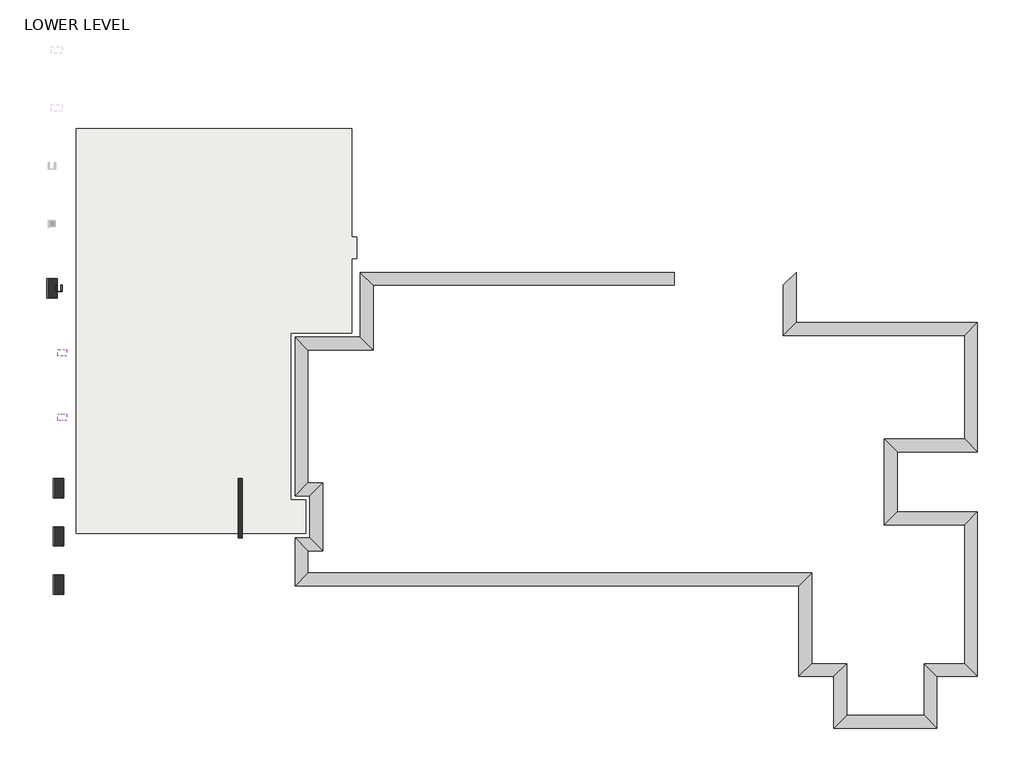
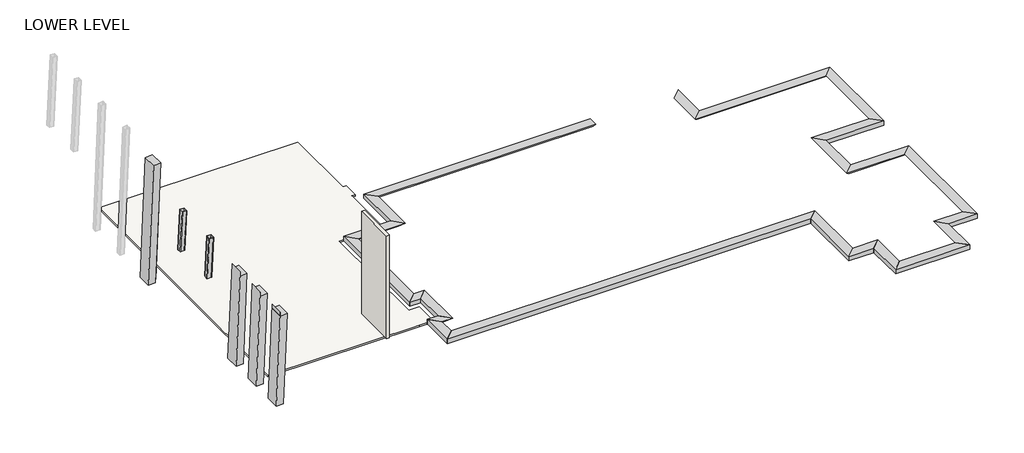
# One storey, part 1 of 2: 10 proxies, 7 columns, 1 slab, 1 wall.
"""IFC4 building model written with IfcOpenShell, lengths in millimetres."""

from ifc_helpers import new_model, si_unit, frame, origin, place, context, project, spatial, polyline, circle_curve, ellipse_curve, outline, extrude, faceted_brep, element, save
from ifc_brep_helpers import plane_surface, cylinder_surface, revolved_surface, advanced_brep

model = new_model("IFC4")

# Units and contexts
model_context = context("Model", 3, world=origin())
ifc_project = project(units=[si_unit("LENGTHUNIT", "METRE", prefix="MILLI")], contexts=[model_context])

# Site, building, storey
site = spatial("IfcSite", under=ifc_project)
building = spatial("IfcBuilding", under=site)
storey = spatial("IfcBuildingStorey", under=building, Name="LOWER LEVEL", Elevation=29972.0)

# Proxies
placement = place(None, origin())
element("IfcBuildingElementProxy", 1, Name="Thickened 24\" x 12\"", ObjectType="Thickened 24\" x 12\"", at=placement, inside=storey, context=model_context, shape_type="Brep", body=[
    faceted_brep([(-10225.7204607, -7095.1304995, 30048.2), (-10225.7204607, -7095.1304995, 30353.0), (-9616.1204607, -6485.5304995, 30353.0), (-9920.9204607, -6790.3304995, 30048.2), (13583.6045393, -7095.1304995, 30048.2), (13888.4045393, -6790.3304995, 30048.2), (14193.2045393, -6485.5304995, 30353.0), (13583.6045393, -7095.1304995, 30353.0)], [[[0, 1, 2, 3]], [[4, 5, 6, 7]], [[1, 0, 4, 7]], [[2, 1, 7, 6]], [[3, 2, 6, 5]], [[0, 3, 5, 4]]]),
])
element("IfcBuildingElementProxy", 2, Name="Thickened 24\" x 12\"", ObjectType="Thickened 24\" x 12\"", at=placement, inside=storey, context=model_context, shape_type="Brep", body=[
    faceted_brep([(13583.6045393, -7095.1304995, 30048.2), (13583.6045393, -7095.1304995, 30353.0), (14193.2045393, -6485.5304995, 30353.0), (13888.4045393, -6790.3304995, 30048.2), (13583.6045393, -11381.3804995, 30048.2), (13888.4045393, -11076.5804995, 30048.2), (14193.2045393, -10771.7804995, 30353.0), (13583.6045393, -11381.3804995, 30353.0)], [[[0, 1, 2, 3]], [[4, 5, 6, 7]], [[1, 0, 4, 7]], [[2, 1, 7, 6]], [[3, 2, 6, 5]], [[0, 3, 5, 4]]]),
    faceted_brep([(20105.0545393, -11381.3804995, 30048.2), (20105.0545393, -11381.3804995, 30353.0), (19495.4545393, -10771.7804995, 30353.0), (19800.2545393, -11076.5804995, 30048.2), (22019.578935, -11381.3804995, 30048.2), (22019.578935, -11381.3804995, 30353.0), (21409.978935, -10771.7804995, 30353.0), (21714.778935, -11076.5804995, 30048.2), (22019.578935, -3602.6304995, 30048.2), (22019.578935, -3602.6304995, 30353.0), (21409.978935, -4212.2304995, 30353.0), (21714.778935, -3907.4304995, 30048.2), (18219.8486799, -3602.6304995, 30048.2), (18219.8486799, -3602.6304995, 30353.0), (17610.2486799, -4212.2304995, 30353.0), (17915.0486799, -3907.4304995, 30048.2), (18219.8486799, -757.8304995, 30048.2), (18219.8486799, -757.8304995, 30353.0), (17610.2486799, -148.2304995, 30353.0), (17915.0486799, -453.0304995, 30048.2), (22019.578935, -757.8304995, 30048.2), (22019.578935, -757.8304995, 30353.0), (21409.978935, -148.2304995, 30353.0), (21714.778935, -453.0304995, 30048.2), (22019.578935, 5350.8695005, 30048.2), (22019.578935, 5350.8695005, 30353.0), (21409.978935, 4741.2695005, 30353.0), (21714.778935, 5046.0695005, 30048.2), (13450.2545393, 5350.8695005, 30048.2), (13450.2545393, 5350.8695005, 30353.0), (12840.6545393, 4741.2695005, 30353.0), (13145.4545393, 5046.0695005, 30048.2), (13450.2545393, 7725.7695005, 30048.2), (13145.4545393, 7420.9695005, 30048.2), (12840.6545393, 7116.1695005, 30353.0), (13450.2545393, 7725.7695005, 30353.0)], [[[0, 1, 2, 3]], [[1, 0, 4, 5]], [[2, 1, 5, 6]], [[3, 2, 6, 7]], [[0, 3, 7, 4]], [[5, 4, 8, 9]], [[6, 5, 9, 10]], [[7, 6, 10, 11]], [[4, 7, 11, 8]], [[9, 8, 12, 13]], [[10, 9, 13, 14]], [[11, 10, 14, 15]], [[8, 11, 15, 12]], [[13, 12, 16, 17]], [[14, 13, 17, 18]], [[15, 14, 18, 19]], [[12, 15, 19, 16]], [[17, 16, 20, 21]], [[18, 17, 21, 22]], [[19, 18, 22, 23]], [[16, 19, 23, 20]], [[21, 20, 24, 25]], [[22, 21, 25, 26]], [[23, 22, 26, 27]], [[20, 23, 27, 24]], [[25, 24, 28, 29]], [[26, 25, 29, 30]], [[27, 26, 30, 31]], [[24, 27, 31, 28]], [[32, 33, 34, 35]], [[29, 28, 32, 35]], [[30, 29, 35, 34]], [[31, 30, 34, 33]], [[28, 31, 33, 32]]]),
    faceted_brep([(7700.3295393, 7725.7695005, 30048.2), (7700.3295393, 7725.7695005, 30353.0), (7700.3295393, 7382.8695005, 30353.0), (7700.3295393, 7116.1695005, 30353.0), (7700.3295393, 7420.9695005, 30048.2), (7700.3295393, 7687.6695005, 30048.2), (-7149.1454607, 7725.7695005, 30048.2), (-7149.1454607, 7725.7695005, 30353.0), (-6539.5454607, 7116.1695005, 30353.0), (-6844.3454607, 7420.9695005, 30048.2), (-7149.1454607, 4661.8945005, 30048.2), (-7149.1454607, 4661.8945005, 30353.0), (-6539.5454607, 4052.2945005, 30353.0), (-6844.3454607, 4357.0945005, 30048.2), (-10225.7204607, 4661.8945005, 30048.2), (-10225.7204607, 4661.8945005, 30353.0), (-9616.1204607, 4052.2945005, 30353.0), (-9920.9204607, 4357.0945005, 30048.2), (-10225.7204607, -2837.4554995, 30048.2), (-9920.9204607, -2532.6554995, 30048.2), (-9616.1204607, -2227.8554995, 30353.0), (-10225.7204607, -2837.4554995, 30353.0)], [[[0, 1, 2, 3, 4, 5]], [[1, 0, 6, 7]], [[3, 2, 1, 7, 8]], [[4, 3, 8, 9]], [[0, 5, 4, 9, 6]], [[7, 6, 10, 11]], [[8, 7, 11, 12]], [[9, 8, 12, 13]], [[6, 9, 13, 10]], [[11, 10, 14, 15]], [[12, 11, 15, 16]], [[13, 12, 16, 17]], [[10, 13, 17, 14]], [[18, 19, 20, 21]], [[15, 14, 18, 21]], [[16, 15, 21, 20]], [[17, 16, 20, 19]], [[14, 17, 19, 18]]]),
])
element("IfcBuildingElementProxy", 3, Name="Thickened 24\" x 12\"", ObjectType="Thickened 24\" x 12\"", at=placement, inside=storey, context=model_context, shape_type="Brep", body=[
    faceted_brep([(-10225.7204607, -4821.8304995, 30048.2), (-10225.7204607, -4821.8304995, 30353.0), (-9616.1204607, -5431.4304995, 30353.0), (-9920.9204607, -5126.6304995, 30048.2), (-10225.7204607, -7095.1304995, 30048.2), (-9920.9204607, -6790.3304995, 30048.2), (-9616.1204607, -6485.5304995, 30353.0), (-10225.7204607, -7095.1304995, 30353.0)], [[[0, 1, 2, 3]], [[4, 5, 6, 7]], [[1, 0, 4, 7]], [[2, 1, 7, 6]], [[3, 2, 6, 5]], [[0, 3, 5, 4]]]),
])
element("IfcBuildingElementProxy", 4, Name="Thickened 24\" x 12\"", ObjectType="Thickened 24\" x 12\"", at=placement, inside=storey, context=model_context, shape_type="Brep", body=[
    faceted_brep([(13583.6045393, -11381.3804995, 30048.2), (13583.6045393, -11381.3804995, 30353.0), (14193.2045393, -10771.7804995, 30353.0), (13888.4045393, -11076.5804995, 30048.2), (15240.9545393, -11381.3804995, 30048.2), (15545.7545393, -11076.5804995, 30048.2), (15850.5545393, -10771.7804995, 30353.0), (15240.9545393, -11381.3804995, 30353.0)], [[[0, 1, 2, 3]], [[4, 5, 6, 7]], [[1, 0, 4, 7]], [[2, 1, 7, 6]], [[3, 2, 6, 5]], [[0, 3, 5, 4]]]),
])
element("IfcBuildingElementProxy", 5, Name="Thickened 24\" x 12\"", ObjectType="Thickened 24\" x 12\"", at=placement, inside=storey, context=model_context, shape_type="Brep", body=[
    faceted_brep([(-10225.7204607, -2837.4554995, 30048.2), (-10225.7204607, -2837.4554995, 30353.0), (-9616.1204607, -2227.8554995, 30353.0), (-9920.9204607, -2532.6554995, 30048.2), (-9524.0454607, -2837.4554995, 30048.2), (-9219.2454607, -2532.6554995, 30048.2), (-8914.4454607, -2227.8554995, 30353.0), (-9524.0454607, -2837.4554995, 30353.0)], [[[0, 1, 2, 3]], [[4, 5, 6, 7]], [[1, 0, 4, 7]], [[2, 1, 7, 6]], [[3, 2, 6, 5]], [[0, 3, 5, 4]]]),
])
element("IfcBuildingElementProxy", 6, Name="Thickened 24\" x 12\"", ObjectType="Thickened 24\" x 12\"", at=placement, inside=storey, context=model_context, shape_type="Brep", body=[
    faceted_brep([(-9524.0454607, -2837.4554995, 30048.2), (-9524.0454607, -2837.4554995, 30353.0), (-8914.4454607, -2227.8554995, 30353.0), (-9219.2454607, -2532.6554995, 30048.2), (-9524.0454607, -4821.8304995, 30048.2), (-9219.2454607, -5126.6304995, 30048.2), (-8914.4454607, -5431.4304995, 30353.0), (-9524.0454607, -4821.8304995, 30353.0)], [[[0, 1, 2, 3]], [[4, 5, 6, 7]], [[1, 0, 4, 7]], [[2, 1, 7, 6]], [[3, 2, 6, 5]], [[0, 3, 5, 4]]]),
])
element("IfcBuildingElementProxy", 7, Name="Thickened 24\" x 12\"", ObjectType="Thickened 24\" x 12\"", at=placement, inside=storey, context=model_context, shape_type="Brep", body=[
    faceted_brep([(-9524.0454607, -4821.8304995, 30048.2), (-9524.0454607, -4821.8304995, 30353.0), (-8914.4454607, -5431.4304995, 30353.0), (-9219.2454607, -5126.6304995, 30048.2), (-10225.7204607, -4821.8304995, 30048.2), (-9920.9204607, -5126.6304995, 30048.2), (-9616.1204607, -5431.4304995, 30353.0), (-10225.7204607, -4821.8304995, 30353.0)], [[[0, 1, 2, 3]], [[4, 5, 6, 7]], [[1, 0, 4, 7]], [[2, 1, 7, 6]], [[3, 2, 6, 5]], [[0, 3, 5, 4]]]),
])
element("IfcBuildingElementProxy", 8, Name="Thickened 24\" x 12\"", ObjectType="Thickened 24\" x 12\"", at=placement, inside=storey, context=model_context, shape_type="Brep", body=[
    faceted_brep([(15240.9545393, -11381.3804995, 30048.2), (15240.9545393, -11381.3804995, 30353.0), (15850.5545393, -10771.7804995, 30353.0), (15545.7545393, -11076.5804995, 30048.2), (15240.9545393, -13826.1304995, 30048.2), (15545.7545393, -13521.3304995, 30048.2), (15850.5545393, -13216.5304995, 30353.0), (15240.9545393, -13826.1304995, 30353.0)], [[[0, 1, 2, 3]], [[4, 5, 6, 7]], [[1, 0, 4, 7]], [[2, 1, 7, 6]], [[3, 2, 6, 5]], [[0, 3, 5, 4]]]),
])
element("IfcBuildingElementProxy", 9, Name="Thickened 24\" x 12\"", ObjectType="Thickened 24\" x 12\"", at=placement, inside=storey, context=model_context, shape_type="Brep", body=[
    faceted_brep([(15240.9545393, -13826.1304995, 30048.2), (15240.9545393, -13826.1304995, 30353.0), (15850.5545393, -13216.5304995, 30353.0), (15545.7545393, -13521.3304995, 30048.2), (20105.0545393, -13826.1304995, 30048.2), (19800.2545393, -13521.3304995, 30048.2), (19495.4545393, -13216.5304995, 30353.0), (20105.0545393, -13826.1304995, 30353.0)], [[[0, 1, 2, 3]], [[4, 5, 6, 7]], [[1, 0, 4, 7]], [[2, 1, 7, 6]], [[3, 2, 6, 5]], [[0, 3, 5, 4]]]),
])
element("IfcBuildingElementProxy", 10, Name="Thickened 24\" x 12\"", ObjectType="Thickened 24\" x 12\"", at=placement, inside=storey, context=model_context, shape_type="Brep", body=[
    faceted_brep([(20105.0545393, -13826.1304995, 30048.2), (20105.0545393, -13826.1304995, 30353.0), (19495.4545393, -13216.5304995, 30353.0), (19800.2545393, -13521.3304995, 30048.2), (20105.0545393, -11381.3804995, 30048.2), (19800.2545393, -11076.5804995, 30048.2), (19495.4545393, -10771.7804995, 30353.0), (20105.0545393, -11381.3804995, 30353.0)], [[[0, 1, 2, 3]], [[4, 5, 6, 7]], [[1, 0, 4, 7]], [[2, 1, 7, 6]], [[3, 2, 6, 5]], [[0, 3, 5, 4]]]),
])

# Columns
element("IfcColumn", 11, ObjectType="Concrete-Rectangular-Column : A_str", at=placement, inside=storey, context=model_context, shape_type="SweptSolid", body=[
    extrude(outline(polyline([(38153.5165689, -21149.7498015), (38102.0297181, -21610.0591887), (29972.0, -21968.2744496), (29972.0, -21510.233612), (38153.5165689, -21149.7498015)])), frame((0.0, 6519.2695005, 0.0), z_axis=(0.0, 1.0, 0.0), x_axis=(0.0, 0.0, 1.0)), (0.0, 0.0, 1.0), 914.4),
])
element("IfcColumn", 12, ObjectType="Concrete-Rectangular-Column : A_str", at=placement, inside=storey, context=model_context, shape_type="SweptSolid", body=[
    extrude(outline(polyline([(29973.8530358, -21660.8606217), (29973.8530358, -21202.8638747), (36170.6135377, -20943.7483082), (36120.4712951, -21392.0570572), (36402.3024462, -21392.0570572), (29973.8530358, -21660.8606217)])), frame((0.0, -7501.5304995, 0.0), z_axis=(0.0, 1.0, 0.0), x_axis=(0.0, 0.0, 1.0)), (0.0, 0.0, 1.0), 914.4),
])
element("IfcColumn", 13, ObjectType="Concrete-Rectangular-Column : A_str", at=placement, inside=storey, context=model_context, shape_type="SweptSolid", body=[
    extrude(outline(polyline([(29973.8530358, -21660.8606217), (29973.8530358, -21202.8638747), (36170.6135377, -20943.7483082), (36120.4712951, -21392.0570572), (36402.3024462, -21392.0570572), (29973.8530358, -21660.8606217)])), frame((0.0, -2929.5304995, 0.0), z_axis=(0.0, 1.0, 0.0), x_axis=(0.0, 0.0, 1.0)), (0.0, 0.0, 1.0), 914.4),
])
element("IfcColumn", 14, ObjectType="Concrete-Rectangular-Column : A_str", at=placement, inside=storey, context=model_context, shape_type="SweptSolid", body=[
    extrude(outline(polyline([(29973.8530358, -21660.8606217), (29973.8530358, -21202.8638747), (36170.6135377, -20943.7483082), (36120.4712951, -21392.0570572), (36402.3024462, -21392.0570572), (29973.8530358, -21660.8606217)])), frame((0.0, -5215.5304995, 0.0), z_axis=(0.0, 1.0, 0.0), x_axis=(0.0, 0.0, 1.0)), (0.0, 0.0, 1.0), 914.4),
])
element("IfcColumn", 15, ObjectType="HSS-Hollow Structural Section-Column : HSS12X12X1/2", at=placement, inside=storey, context=model_context, shape_type="AdvancedBrep", body=[
    advanced_brep(
    [(-21315.8891626, 7105.2475005, 36435.6858997), (-21315.8891626, 6847.6915005, 36435.6858997), (-21292.1362735, 6824.0695005, 36438.342617), (-21033.15316, 6824.0695005, 36467.3094054), (-21009.4002709, 6847.6915005, 36469.9661227), (-21009.4002709, 7105.2475005, 36469.9661227), (-21033.15316, 7128.8695005, 36467.3094054), (-21292.1362735, 7128.8695005, 36438.342617), (-21292.1362735, 6835.8805005, 36438.342617), (-21304.012718, 6847.6915005, 36437.0142583), (-21304.012718, 7105.2475005, 36437.0142583), (-21292.1362735, 7117.0585005, 36438.342617), (-21033.15316, 7117.0585005, 36467.3094054), (-21021.2767155, 7105.2475005, 36468.637764), (-21021.2767155, 6847.6915005, 36468.637764), (-21033.15316, 6835.8805005, 36467.3094054), (-21584.4793713, 7105.2475005, 29976.5811676), (-21584.4793713, 6847.6915005, 29976.5811676), (-21560.877768, 6835.8805005, 29975.5997375), (-21572.6785697, 6847.6915005, 29976.0904526), (-21303.5441577, 6835.8805005, 29964.8989839), (-21291.743356, 6847.6915005, 29964.4082689), (-21291.743356, 7105.2475005, 29964.4082689), (-21303.5441577, 7117.0585005, 29964.8989839), (-21560.877768, 7117.0585005, 29975.5997375), (-21572.6785697, 7105.2475005, 29976.0904526), (-21560.877768, 7128.8695005, 29975.5997375), (-21303.5441577, 7128.8695005, 29964.8989839), (-21279.9425544, 7105.2475005, 29963.9175539), (-21279.9425544, 6847.6915005, 29963.9175539), (-21303.5441577, 6824.0695005, 29964.8989839), (-21560.877768, 6824.0695005, 29975.5997375)],
    [
        (0, 1),
        (1, 2, ellipse_curve(frame((-21292.1362735, 6847.6915005, 36438.342617), z_axis=(-0.11115505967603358, 0.0, 0.9938030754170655), x_axis=(0.9938030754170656, 0.0, 0.11115505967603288)), 23.9010018, 23.622)),
        (2, 3),
        (3, 4, ellipse_curve(frame((-21033.15316, 6847.6915005, 36467.3094054), z_axis=(-0.11115505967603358, 0.0, 0.9938030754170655), x_axis=(0.9938030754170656, 0.0, 0.11115505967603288)), 23.9010018, 23.622)),
        (4, 5),
        (5, 6, ellipse_curve(frame((-21033.15316, 7105.2475005, 36467.3094054), z_axis=(-0.11115505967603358, 0.0, 0.9938030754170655), x_axis=(0.9938030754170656, 0.0, 0.11115505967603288)), 23.9010018, 23.622)),
        (6, 7),
        (7, 0, ellipse_curve(frame((-21292.1362735, 7105.2475005, 36438.342617), z_axis=(-0.11115505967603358, 0.0, 0.9938030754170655), x_axis=(0.9938030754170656, 0.0, 0.11115505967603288)), 23.9010018, 23.622)),
        (8, 9, ellipse_curve(frame((-21292.1362735, 6847.6915005, 36438.342617), z_axis=(0.11115505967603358, 0.0, -0.9938030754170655), x_axis=(-0.9938030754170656, 0.0, -0.11115505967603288)), 11.9505009, 11.811)),
        (9, 10),
        (10, 11, ellipse_curve(frame((-21292.1362735, 7105.2475005, 36438.342617), z_axis=(0.11115505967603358, 0.0, -0.9938030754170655), x_axis=(-0.9938030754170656, 0.0, -0.11115505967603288)), 11.9505009, 11.811)),
        (11, 12),
        (12, 13, ellipse_curve(frame((-21033.15316, 7105.2475005, 36467.3094054), z_axis=(0.11115505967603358, 0.0, -0.9938030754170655), x_axis=(-0.9938030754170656, 0.0, -0.11115505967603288)), 11.9505009, 11.811)),
        (13, 14),
        (14, 15, ellipse_curve(frame((-21033.15316, 6847.6915005, 36467.3094054), z_axis=(0.11115505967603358, 0.0, -0.9938030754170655), x_axis=(-0.9938030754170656, 0.0, -0.11115505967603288)), 11.9505009, 11.811)),
        (15, 8),
        (0, 16),
        (16, 17),
        (17, 1),
        (8, 18),
        (18, 19, circle_curve(frame((-21560.877768, 6847.6915005, 29975.5997375), z_axis=(-0.041547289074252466, 0.0, -0.9991365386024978), x_axis=(0.0, 1.0, 0.0)), 11.811)),
        (19, 9),
        (15, 20),
        (20, 18),
        (14, 21),
        (21, 20, circle_curve(frame((-21303.5441577, 6847.6915005, 29964.8989839), z_axis=(-0.041547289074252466, 0.0, -0.9991365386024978), x_axis=(0.0, 1.0, 0.0)), 11.811)),
        (13, 22),
        (22, 21),
        (12, 23),
        (23, 22, circle_curve(frame((-21303.5441577, 7105.2475005, 29964.8989839), z_axis=(-0.041547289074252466, 0.0, -0.9991365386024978), x_axis=(0.0, 1.0, 0.0)), 11.811)),
        (11, 24),
        (24, 23),
        (10, 25),
        (25, 24, circle_curve(frame((-21560.877768, 7105.2475005, 29975.5997375), z_axis=(-0.041547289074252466, 0.0, -0.9991365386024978), x_axis=(0.0, 1.0, 0.0)), 11.811)),
        (7, 26),
        (26, 16, circle_curve(frame((-21560.877768, 7105.2475005, 29975.5997375), z_axis=(0.041547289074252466, 0.0, 0.9991365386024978), x_axis=(0.0, 1.0, 0.0)), 23.622)),
        (26, 27),
        (27, 28, circle_curve(frame((-21303.5441577, 7105.2475005, 29964.8989839), z_axis=(-0.041547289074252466, 0.0, -0.9991365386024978), x_axis=(0.0, 1.0, 0.0)), 23.622)),
        (28, 29),
        (29, 30, circle_curve(frame((-21303.5441577, 6847.6915005, 29964.8989839), z_axis=(-0.041547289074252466, 0.0, -0.9991365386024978), x_axis=(0.0, 1.0, 0.0)), 23.622)),
        (30, 31),
        (31, 17, circle_curve(frame((-21560.877768, 6847.6915005, 29975.5997375), z_axis=(-0.041547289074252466, 0.0, -0.9991365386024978), x_axis=(0.0, 1.0, 0.0)), 23.622)),
        (25, 19),
        (31, 2),
        (6, 27),
        (5, 28),
        (4, 29),
        (3, 30),
    ],
    [
        plane_surface(frame((-11485.0467002, -8086.4745246, 37535.2476817), z_axis=(-0.11115505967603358, 0.0, 0.9938030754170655), x_axis=(0.9938030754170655, 0.0, 0.11115505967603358))),
        plane_surface(frame((-21296.7925453, 7105.2475005, 36894.9247206), z_axis=(-0.9991365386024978, 0.0, 0.041547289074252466), x_axis=(-0.041547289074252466, 0.0, -0.9991365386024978))),
        revolved_surface(polyline([(-21560.877768, 6859.5025005, 29975.5997375), (-21292.060630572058, 6859.5025005, 36440.16169067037)]), (-21560.877768, 6847.6915005, 29975.5997375), (-0.041547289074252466, 0.0, -0.9991365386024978)),
        plane_surface(frame((-21015.8573317, 6835.8805005, 36883.242537), z_axis=(0.0, 1.0000000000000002, 0.0), x_axis=(-0.041547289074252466, 0.0, -0.9991365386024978))),
        revolved_surface(polyline([(-21303.5441577, 6859.5025005, 29964.8989839), (-21033.07751715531, 6859.5025005, 36469.128479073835)]), (-21303.5441577, 6847.6915005, 29964.8989839), (-0.041547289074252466, 0.0, -0.9991365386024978)),
        plane_surface(frame((-21004.05653, 7105.2475005, 36882.7518219), z_axis=(-0.9991365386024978, 0.0, 0.041547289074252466), x_axis=(-0.041547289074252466, 0.0, -0.9991365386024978))),
        revolved_surface(polyline([(-21303.5441577, 7117.058500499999, 29964.8989839), (-21033.07751715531, 7117.058500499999, 36469.128479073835)]), (-21303.5441577, 7105.2475005, 29964.8989839), (-0.041547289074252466, 0.0, -0.9991365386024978)),
        plane_surface(frame((-21273.190942, 7117.0585005, 36893.9432905), z_axis=(0.0, -1.0000000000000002, 0.0), x_axis=(-0.041547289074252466, 0.0, -0.9991365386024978))),
        revolved_surface(polyline([(-21560.877768, 7117.058500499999, 29975.5997375), (-21292.060630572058, 7117.058500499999, 36440.16169067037)]), (-21560.877768, 7105.2475005, 29975.5997375), (-0.041547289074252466, 0.0, -0.9991365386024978)),
        cylinder_surface(frame((-21560.877768, 7105.2475005, 29975.5997375), z_axis=(0.041547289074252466, 0.0, 0.9991365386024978), x_axis=(0.0, 1.0, 0.0)), 23.622),
        plane_surface(frame((-21584.4793713, 6847.6915005, 29976.5811676), z_axis=(-0.04154728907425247, 0.0, -0.9991365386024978), x_axis=(0.0, 1.0, 0.0))),
        cylinder_surface(frame((-21560.877768, 6847.6915005, 29975.5997375), z_axis=(0.041547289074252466, 0.0, 0.9991365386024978), x_axis=(0.0, 1.0, 0.0)), 23.622),
        plane_surface(frame((-21284.9917437, 6847.6915005, 36894.4340056), z_axis=(0.9991365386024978, 0.0, -0.041547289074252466), x_axis=(-0.041547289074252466, 0.0, -0.9991365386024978))),
        plane_surface(frame((-21015.8573317, 7128.8695005, 36883.242537), z_axis=(0.0, 1.0000000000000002, 0.0), x_axis=(-0.041547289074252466, 0.0, -0.9991365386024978))),
        cylinder_surface(frame((-21303.5441577, 7105.2475005, 29964.8989839), z_axis=(0.041547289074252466, 0.0, 0.9991365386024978), x_axis=(0.0, 1.0, 0.0)), 23.622),
        plane_surface(frame((-20992.2557284, 6847.6915005, 36882.2611069), z_axis=(0.9991365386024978, 0.0, -0.041547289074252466), x_axis=(-0.041547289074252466, 0.0, -0.9991365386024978))),
        cylinder_surface(frame((-21303.5441577, 6847.6915005, 29964.8989839), z_axis=(0.041547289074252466, 0.0, 0.9991365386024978), x_axis=(0.0, 1.0, 0.0)), 23.622),
        plane_surface(frame((-21273.190942, 6824.0695005, 36893.9432905), z_axis=(0.0, -1.0000000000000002, 0.0), x_axis=(-0.041547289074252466, 0.0, -0.9991365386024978))),
    ],
    [
        (0, [[1, 2, 3, 4, 5, 6, 7, 8], [9, 10, 11, 12, 13, 14, 15, 16]]),
        (1, [[17, 18, 19, -1]]),
        (2, [[20, 21, 22, -9]]),
        (3, [[23, 24, -20, -16]]),
        (4, [[25, 26, -23, -15]]),
        (5, [[27, 28, -25, -14]]),
        (6, [[29, 30, -27, -13]]),
        (7, [[31, 32, -29, -12]]),
        (8, [[33, 34, -31, -11]]),
        (9, [[35, 36, -17, -8]]),
        (10, [[-36, 37, 38, 39, 40, 41, 42, -18], [43, -21, -24, -26, -28, -30, -32, -34]]),
        (11, [[-19, -42, 44, -2]]),
        (12, [[-22, -43, -33, -10]]),
        (13, [[45, -37, -35, -7]]),
        (14, [[46, -38, -45, -6]]),
        (15, [[47, -39, -46, -5]]),
        (16, [[48, -40, -47, -4]]),
        (17, [[-44, -41, -48, -3]]),
    ],
),
])
element("IfcColumn", 16, ObjectType="HSS-Hollow Structural Section-Column : HSS12X12X1/2", at=placement, inside=storey, context=model_context, shape_type="AdvancedBrep", body=[
    advanced_brep(
    [(-21448.8559083, 3799.6915005, 33761.4284423), (-21450.2129909, 4057.2475005, 33734.1869423), (-21426.6861638, 4080.8695005, 33731.6884615), (-21168.8107725, 4080.8695005, 33731.6884615), (-21145.0350131, 4057.2475005, 33734.1869423), (-21143.6779305, 3799.6915005, 33761.4284423), (-21167.2047576, 3776.0695005, 33763.9269231), (-21425.0801489, 3776.0695005, 33763.9269231), (-21437.0302617, 3799.6915005, 33761.4284423), (-21425.1423819, 3787.8805005, 33762.6776827), (-21167.2669907, 3787.8805005, 33762.6776827), (-21155.5035771, 3799.6915005, 33761.4284423), (-21156.8606597, 4057.2475005, 33734.1869423), (-21168.7485395, 4069.0585005, 33732.9377019), (-21426.6239307, 4069.0585005, 33732.9377019), (-21438.3873443, 4057.2475005, 33734.1869423), (-21314.3989774, 4057.2475005, 36460.4597914), (-21314.3989774, 3799.6915005, 36460.4597914), (-21290.8062344, 3776.0695005, 36459.284478), (-21033.5692301, 3776.0695005, 36446.4697701), (-21009.9764871, 3799.6915005, 36445.2944567), (-21009.9764871, 4057.2475005, 36445.2944567), (-21033.5692301, 4080.8695005, 36446.4697701), (-21290.8062344, 4080.8695005, 36459.284478), (-21302.6026059, 4057.2475005, 36459.8721347), (-21290.8062344, 4069.0585005, 36459.284478), (-21033.5692301, 4069.0585005, 36446.4697701), (-21021.7728586, 4057.2475005, 36445.8821134), (-21021.7728586, 3799.6915005, 36445.8821134), (-21033.5692301, 3787.8805005, 36446.4697701), (-21290.8062344, 3787.8805005, 36459.284478), (-21302.6026059, 3799.6915005, 36459.8721347)],
    [
        (0, 1),
        (1, 2, ellipse_curve(frame((-21426.5616976, 4057.2475005, 33734.1869423), z_axis=(0.0, -0.10518252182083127, -0.9944529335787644), x_axis=(0.42804027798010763, -0.8987464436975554, 0.09505972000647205)), 23.7832204, 23.622)),
        (2, 3),
        (3, 4, ellipse_curve(frame((-21168.6863064, 4057.2475005, 33734.1869423), z_axis=(0.0, -0.10518252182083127, -0.9944529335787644), x_axis=(0.42804027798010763, -0.8987464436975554, 0.09505972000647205)), 23.7832204, 23.622)),
        (4, 5),
        (5, 6, ellipse_curve(frame((-21167.3292238, 3799.6915005, 33761.4284423), z_axis=(0.0, -0.10518252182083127, -0.9944529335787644), x_axis=(0.42804027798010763, -0.8987464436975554, 0.09505972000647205)), 23.7832204, 23.622)),
        (6, 7),
        (7, 0, ellipse_curve(frame((-21425.204615, 3799.6915005, 33761.4284423), z_axis=(0.0, -0.10518252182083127, -0.9944529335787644), x_axis=(0.42804027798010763, -0.8987464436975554, 0.09505972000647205)), 23.7832204, 23.622)),
        (8, 9, ellipse_curve(frame((-21425.204615, 3799.6915005, 33761.4284423), z_axis=(0.0, 0.10518252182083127, 0.9944529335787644), x_axis=(-0.42804027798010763, 0.8987464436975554, -0.09505972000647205)), 11.8916102, 11.811)),
        (9, 10),
        (10, 11, ellipse_curve(frame((-21167.3292238, 3799.6915005, 33761.4284423), z_axis=(0.0, 0.10518252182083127, 0.9944529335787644), x_axis=(-0.42804027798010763, 0.8987464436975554, -0.09505972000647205)), 11.8916102, 11.811)),
        (11, 12),
        (12, 13, ellipse_curve(frame((-21168.6863064, 4057.2475005, 33734.1869423), z_axis=(0.0, 0.10518252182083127, 0.9944529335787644), x_axis=(-0.42804027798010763, 0.8987464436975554, -0.09505972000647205)), 11.8916102, 11.811)),
        (13, 14),
        (14, 15, ellipse_curve(frame((-21426.5616976, 4057.2475005, 33734.1869423), z_axis=(0.0, 0.10518252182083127, 0.9944529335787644), x_axis=(-0.42804027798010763, 0.8987464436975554, -0.09505972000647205)), 11.8916102, 11.811)),
        (15, 8),
        (16, 17),
        (17, 18, circle_curve(frame((-21290.8062344, 3799.6915005, 36459.284478), z_axis=(0.04975503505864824, 0.0, 0.9987614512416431), x_axis=(0.0, 0.9999999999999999, 0.0)), 23.622)),
        (18, 19),
        (19, 20, circle_curve(frame((-21033.5692301, 3799.6915005, 36446.4697701), z_axis=(0.04975503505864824, 0.0, 0.9987614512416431), x_axis=(0.0, 0.9999999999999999, 0.0)), 23.622)),
        (20, 21),
        (21, 22, circle_curve(frame((-21033.5692301, 4057.2475005, 36446.4697701), z_axis=(0.04975503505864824, 0.0, 0.9987614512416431), x_axis=(0.0, 0.9999999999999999, 0.0)), 23.622)),
        (22, 23),
        (23, 16, circle_curve(frame((-21290.8062344, 4057.2475005, 36459.284478), z_axis=(0.04975503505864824, 0.0, 0.9987614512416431), x_axis=(0.0, 0.9999999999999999, 0.0)), 23.622)),
        (24, 25, circle_curve(frame((-21290.8062344, 4057.2475005, 36459.284478), z_axis=(-0.04975503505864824, 0.0, -0.9987614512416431), x_axis=(0.0, 0.9999999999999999, 0.0)), 11.811)),
        (25, 26),
        (26, 27, circle_curve(frame((-21033.5692301, 4057.2475005, 36446.4697701), z_axis=(-0.04975503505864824, 0.0, -0.9987614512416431), x_axis=(0.0, 0.9999999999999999, 0.0)), 11.811)),
        (27, 28),
        (28, 29, circle_curve(frame((-21033.5692301, 3799.6915005, 36446.4697701), z_axis=(-0.04975503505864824, 0.0, -0.9987614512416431), x_axis=(0.0, 0.9999999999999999, 0.0)), 11.811)),
        (29, 30),
        (30, 31, circle_curve(frame((-21290.8062344, 3799.6915005, 36459.284478), z_axis=(-0.04975503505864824, 0.0, -0.9987614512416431), x_axis=(0.0, 0.9999999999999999, 0.0)), 11.811)),
        (31, 24),
        (24, 15),
        (14, 25),
        (13, 26),
        (12, 27),
        (11, 28),
        (10, 29),
        (9, 30),
        (8, 31),
        (16, 1),
        (0, 17),
        (23, 2),
        (7, 18),
        (6, 19),
        (5, 20),
        (4, 21),
        (3, 22),
    ],
    [
        plane_surface(frame((-22209.6315188, 6979.583644, 33425.0936964), z_axis=(0.0, -0.10518252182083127, -0.9944529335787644), x_axis=(0.0, 0.9944529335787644, -0.10518252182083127))),
        plane_surface(frame((-21314.3989774, 3799.6915005, 36460.4597914), z_axis=(0.049755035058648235, 0.0, 0.998761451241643), x_axis=(0.0, -1.0, 0.0))),
        revolved_surface(polyline([(-21426.630472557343, 4069.0585005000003, 33732.80638373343), (-21290.806234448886, 4069.0585005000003, 36459.28447800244)]), (-21448.3381122, 4057.2475005, 33297.0564411), (-0.04975503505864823, 0.0, -0.9987614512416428)),
        plane_surface(frame((-21290.8062344, 4069.0585005, 36459.284478), z_axis=(0.0, -1.0, 0.0), x_axis=(-0.049755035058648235, 0.0, -0.998761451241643))),
        revolved_surface(polyline([(-21168.755081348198, 4069.0585005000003, 33732.80638373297), (-21033.569230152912, 4069.0585005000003, 36446.46977012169)]), (-21191.1011079, 4057.2475005, 33284.2417333), (-0.04975503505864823, 0.0, -0.9987614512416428)),
        plane_surface(frame((-21021.7728586, 4057.2475005, 36445.8821134), z_axis=(-0.998761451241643, 0.0, 0.049755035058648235), x_axis=(-0.049755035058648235, 0.0, -0.998761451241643))),
        revolved_surface(polyline([(-21167.39799874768, 3811.5025005, 33760.04788373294), (-21033.569230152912, 3811.5025005, 36446.46977012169)]), (-21191.1011079, 3799.6915005, 33284.2417333), (-0.04975503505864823, 0.0, -0.9987614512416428)),
        plane_surface(frame((-21033.5692301, 3787.8805005, 36446.4697701), z_axis=(0.0, 1.0, 0.0), x_axis=(-0.049755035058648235, 0.0, -0.998761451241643))),
        revolved_surface(polyline([(-21425.273389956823, 3811.5025005, 33760.047883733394), (-21290.806234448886, 3811.5025005, 36459.28447800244)]), (-21448.3381122, 3799.6915005, 33297.0564411), (-0.04975503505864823, 0.0, -0.9987614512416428)),
        plane_surface(frame((-21314.3989774, 4057.2475005, 36460.4597914), z_axis=(-0.998761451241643, 0.0, 0.049755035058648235), x_axis=(-0.049755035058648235, 0.0, -0.998761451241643))),
        cylinder_surface(frame((-21448.3381122, 4057.2475005, 33297.0564411), z_axis=(0.04975503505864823, 0.0, 0.9987614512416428), x_axis=(0.0, 0.9999999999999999, 0.0)), 23.622),
        cylinder_surface(frame((-21448.3381122, 3799.6915005, 33297.0564411), z_axis=(0.04975503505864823, 0.0, 0.9987614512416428), x_axis=(0.0, 0.9999999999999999, 0.0)), 23.622),
        plane_surface(frame((-21302.6026059, 3799.6915005, 36459.8721347), z_axis=(0.998761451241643, 0.0, -0.049755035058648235), x_axis=(-0.049755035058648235, 0.0, -0.998761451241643))),
        plane_surface(frame((-21290.8062344, 3776.0695005, 36459.284478), z_axis=(0.0, -1.0, 0.0), x_axis=(-0.049755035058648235, 0.0, -0.998761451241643))),
        cylinder_surface(frame((-21191.1011079, 3799.6915005, 33284.2417333), z_axis=(0.04975503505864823, 0.0, 0.9987614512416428), x_axis=(0.0, 0.9999999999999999, 0.0)), 23.622),
        plane_surface(frame((-21009.9764871, 3799.6915005, 36445.2944567), z_axis=(0.998761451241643, 0.0, -0.049755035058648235), x_axis=(-0.049755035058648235, 0.0, -0.998761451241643))),
        cylinder_surface(frame((-21191.1011079, 4057.2475005, 33284.2417333), z_axis=(0.04975503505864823, 0.0, 0.9987614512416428), x_axis=(0.0, 0.9999999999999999, 0.0)), 23.622),
        plane_surface(frame((-21033.5692301, 4080.8695005, 36446.4697701), z_axis=(0.0, 1.0, 0.0), x_axis=(-0.049755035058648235, 0.0, -0.998761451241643))),
    ],
    [
        (0, [[1, 2, 3, 4, 5, 6, 7, 8], [9, 10, 11, 12, 13, 14, 15, 16]]),
        (1, [[17, 18, 19, 20, 21, 22, 23, 24], [25, 26, 27, 28, 29, 30, 31, 32]]),
        (2, [[-25, 33, -15, 34]]),
        (3, [[-26, -34, -14, 35]]),
        (4, [[-27, -35, -13, 36]]),
        (5, [[-28, -36, -12, 37]]),
        (6, [[-29, -37, -11, 38]]),
        (7, [[-30, -38, -10, 39]]),
        (8, [[-31, -39, -9, 40]]),
        (9, [[-17, 41, -1, 42]]),
        (10, [[-24, 43, -2, -41]]),
        (11, [[-18, -42, -8, 44]]),
        (12, [[-32, -40, -16, -33]]),
        (13, [[-19, -44, -7, 45]]),
        (14, [[-20, -45, -6, 46]]),
        (15, [[-21, -46, -5, 47]]),
        (16, [[-22, -47, -4, 48]]),
        (17, [[-23, -48, -3, -43]]),
    ],
),
])
element("IfcColumn", 17, ObjectType="HSS-Hollow Structural Section-Column : HSS12X12X1/2", at=placement, inside=storey, context=model_context, shape_type="AdvancedBrep", body=[
    advanced_brep(
    [(-21450.2130043, 751.6915005, 33734.1869423), (-21448.8559045, 1009.2475005, 33761.4284423), (-21425.0801427, 1032.8695005, 33763.9269231), (-21167.2047434, 1032.8695005, 33763.9269231), (-21143.6779171, 1009.2475005, 33761.4284423), (-21145.0350169, 751.6915005, 33734.1869423), (-21168.8107787, 728.0695005, 33731.6884615), (-21426.686178, 728.0695005, 33731.6884615), (-21438.3873573, 751.6915005, 33734.1869423), (-21426.6239441, 739.8805005, 33732.9377019), (-21168.7485448, 739.8805005, 33732.9377019), (-21156.8606639, 751.6915005, 33734.1869423), (-21155.5035641, 1009.2475005, 33761.4284423), (-21167.2669773, 1021.0585005, 33762.6776827), (-21425.1423766, 1021.0585005, 33762.6776827), (-21437.0302575, 1009.2475005, 33761.4284423), (-21314.3972552, 1009.2475005, 36460.4600794), (-21314.3972552, 751.6915005, 36460.4600794), (-21290.804513, 728.0695005, 36459.2847511), (-21033.5675167, 728.0695005, 36446.4698812), (-21009.9747744, 751.6915005, 36445.2945529), (-21009.9747744, 1009.2475005, 36445.2945529), (-21033.5675167, 1032.8695005, 36446.4698812), (-21290.804513, 1032.8695005, 36459.2847511), (-21302.6008841, 1009.2475005, 36459.8724152), (-21290.804513, 1021.0585005, 36459.2847511), (-21033.5675167, 1021.0585005, 36446.4698812), (-21021.7711456, 1009.2475005, 36445.8822171), (-21021.7711456, 751.6915005, 36445.8822171), (-21033.5675167, 739.8805005, 36446.4698812), (-21290.804513, 739.8805005, 36459.2847511), (-21302.6008841, 751.6915005, 36459.8724152)],
    [
        (0, 1),
        (1, 2, ellipse_curve(frame((-21425.2046105, 1009.2475005, 33761.4284423), z_axis=(0.0, 0.10518252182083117, -0.9944529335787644), x_axis=(0.4280447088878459, 0.898744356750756, 0.09505949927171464)), 23.7832211, 23.622)),
        (2, 3),
        (3, 4, ellipse_curve(frame((-21167.3292111, 1009.2475005, 33761.4284423), z_axis=(0.0, 0.10518252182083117, -0.9944529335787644), x_axis=(0.4280447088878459, 0.898744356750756, 0.09505949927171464)), 23.7832211, 23.622)),
        (4, 5),
        (5, 6, ellipse_curve(frame((-21168.6863109, 751.6915005, 33734.1869423), z_axis=(0.0, 0.10518252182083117, -0.9944529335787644), x_axis=(0.4280447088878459, 0.898744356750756, 0.09505949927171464)), 23.7832211, 23.622)),
        (6, 7),
        (7, 0, ellipse_curve(frame((-21426.5617103, 751.6915005, 33734.1869423), z_axis=(0.0, 0.10518252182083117, -0.9944529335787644), x_axis=(0.4280447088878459, 0.898744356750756, 0.09505949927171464)), 23.7832211, 23.622)),
        (8, 9, ellipse_curve(frame((-21426.5617103, 751.6915005, 33734.1869423), z_axis=(0.0, -0.10518252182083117, 0.9944529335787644), x_axis=(-0.4280447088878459, -0.898744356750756, -0.09505949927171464)), 11.8916106, 11.811)),
        (9, 10),
        (10, 11, ellipse_curve(frame((-21168.6863109, 751.6915005, 33734.1869423), z_axis=(0.0, -0.10518252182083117, 0.9944529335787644), x_axis=(-0.4280447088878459, -0.898744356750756, -0.09505949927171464)), 11.8916106, 11.811)),
        (11, 12),
        (12, 13, ellipse_curve(frame((-21167.3292111, 1009.2475005, 33761.4284423), z_axis=(0.0, -0.10518252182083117, 0.9944529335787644), x_axis=(-0.4280447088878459, -0.898744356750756, -0.09505949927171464)), 11.8916106, 11.811)),
        (13, 14),
        (14, 15, ellipse_curve(frame((-21425.2046105, 1009.2475005, 33761.4284423), z_axis=(0.0, -0.10518252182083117, 0.9944529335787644), x_axis=(-0.4280447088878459, -0.898744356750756, -0.09505949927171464)), 11.8916106, 11.811)),
        (15, 8),
        (16, 17),
        (17, 18, circle_curve(frame((-21290.804513, 751.6915005, 36459.2847511), z_axis=(0.04975566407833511, 0.0, 0.9987614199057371), x_axis=(0.0, 0.9999999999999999, 0.0)), 23.622)),
        (18, 19),
        (19, 20, circle_curve(frame((-21033.5675167, 751.6915005, 36446.4698812), z_axis=(0.04975566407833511, 0.0, 0.9987614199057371), x_axis=(0.0, 0.9999999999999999, 0.0)), 23.622)),
        (20, 21),
        (21, 22, circle_curve(frame((-21033.5675167, 1009.2475005, 36446.4698812), z_axis=(0.04975566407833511, 0.0, 0.9987614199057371), x_axis=(0.0, 0.9999999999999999, 0.0)), 23.622)),
        (22, 23),
        (23, 16, circle_curve(frame((-21290.804513, 1009.2475005, 36459.2847511), z_axis=(0.04975566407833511, 0.0, 0.9987614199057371), x_axis=(0.0, 0.9999999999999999, 0.0)), 23.622)),
        (24, 25, circle_curve(frame((-21290.804513, 1009.2475005, 36459.2847511), z_axis=(-0.04975566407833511, 0.0, -0.9987614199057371), x_axis=(0.0, 0.9999999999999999, 0.0)), 11.811)),
        (25, 26),
        (26, 27, circle_curve(frame((-21033.5675167, 1009.2475005, 36446.4698812), z_axis=(-0.04975566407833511, 0.0, -0.9987614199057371), x_axis=(0.0, 0.9999999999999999, 0.0)), 11.811)),
        (27, 28),
        (28, 29, circle_curve(frame((-21033.5675167, 751.6915005, 36446.4698812), z_axis=(-0.04975566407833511, 0.0, -0.9987614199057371), x_axis=(0.0, 0.9999999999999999, 0.0)), 11.811)),
        (29, 30),
        (30, 31, circle_curve(frame((-21290.804513, 751.6915005, 36459.2847511), z_axis=(-0.04975566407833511, 0.0, -0.9987614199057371), x_axis=(0.0, 0.9999999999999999, 0.0)), 11.811)),
        (31, 24),
        (24, 15),
        (14, 25),
        (13, 26),
        (12, 27),
        (11, 28),
        (10, 29),
        (9, 30),
        (8, 31),
        (16, 1),
        (0, 17),
        (23, 2),
        (7, 18),
        (6, 19),
        (5, 20),
        (4, 21),
        (3, 22),
    ],
    [
        plane_surface(frame((-22209.6315188, -2170.644643, 33425.0936964), z_axis=(0.0, 0.10518252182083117, -0.9944529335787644), x_axis=(0.0, -0.9944529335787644, -0.10518252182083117))),
        plane_surface(frame((-21314.3972552, 751.6915005, 36460.4600794), z_axis=(0.0497556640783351, 0.0, 0.998761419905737), x_axis=(0.0, -1.0, 0.0))),
        revolved_surface(polyline([(-21425.273386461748, 1021.0585005, 33760.04788056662), (-21290.804512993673, 1021.0585005, 36459.28475109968)]), (-21448.3384016, 1009.2475005, 33297.0564263), (-0.04975566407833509, 0.0, -0.9987614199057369)),
        plane_surface(frame((-21290.804513, 1021.0585005, 36459.2847511), z_axis=(0.0, -1.0, 0.0), x_axis=(-0.0497556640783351, 0.0, -0.998761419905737))),
        revolved_surface(polyline([(-21167.39798709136, 1021.0585005, 33760.04788056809), (-21033.56751669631, 1021.0585005, 36446.469881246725)]), (-21191.1014053, 1009.2475005, 33284.2415565), (-0.04975566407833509, 0.0, -0.9987614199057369)),
        plane_surface(frame((-21021.7711456, 1009.2475005, 36445.8822171), z_axis=(-0.998761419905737, 0.0, 0.0497556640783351), x_axis=(-0.0497556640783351, 0.0, -0.998761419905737))),
        revolved_surface(polyline([(-21168.75508689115, 763.5025005, 33732.80638056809), (-21033.56751669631, 763.5025005, 36446.469881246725)]), (-21191.1014053, 751.6915005, 33284.2415565), (-0.04975566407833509, 0.0, -0.9987614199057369)),
        plane_surface(frame((-21033.5675167, 739.8805005, 36446.4698812), z_axis=(0.0, 1.0, 0.0), x_axis=(-0.0497556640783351, 0.0, -0.998761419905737))),
        revolved_surface(polyline([(-21426.630486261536, 763.5025005, 33732.80638056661), (-21290.804512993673, 763.5025005, 36459.28475109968)]), (-21448.3384016, 751.6915005, 33297.0564263), (-0.04975566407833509, 0.0, -0.9987614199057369)),
        plane_surface(frame((-21314.3972552, 1009.2475005, 36460.4600794), z_axis=(-0.998761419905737, 0.0, 0.0497556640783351), x_axis=(-0.0497556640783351, 0.0, -0.998761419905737))),
        cylinder_surface(frame((-21448.3384016, 1009.2475005, 33297.0564263), z_axis=(0.04975566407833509, 0.0, 0.9987614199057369), x_axis=(0.0, 0.9999999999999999, 0.0)), 23.622),
        cylinder_surface(frame((-21448.3384016, 751.6915005, 33297.0564263), z_axis=(0.04975566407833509, 0.0, 0.9987614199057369), x_axis=(0.0, 0.9999999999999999, 0.0)), 23.622),
        plane_surface(frame((-21302.6008841, 751.6915005, 36459.8724152), z_axis=(0.998761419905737, 0.0, -0.0497556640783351), x_axis=(-0.0497556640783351, 0.0, -0.998761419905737))),
        plane_surface(frame((-21290.804513, 728.0695005, 36459.2847511), z_axis=(0.0, -1.0, 0.0), x_axis=(-0.0497556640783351, 0.0, -0.998761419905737))),
        cylinder_surface(frame((-21191.1014053, 751.6915005, 33284.2415565), z_axis=(0.04975566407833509, 0.0, 0.9987614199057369), x_axis=(0.0, 0.9999999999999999, 0.0)), 23.622),
        plane_surface(frame((-21009.9747744, 751.6915005, 36445.2945529), z_axis=(0.998761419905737, 0.0, -0.0497556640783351), x_axis=(-0.0497556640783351, 0.0, -0.998761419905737))),
        cylinder_surface(frame((-21191.1014053, 1009.2475005, 33284.2415565), z_axis=(0.04975566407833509, 0.0, 0.9987614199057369), x_axis=(0.0, 0.9999999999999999, 0.0)), 23.622),
        plane_surface(frame((-21033.5675167, 1032.8695005, 36446.4698812), z_axis=(0.0, 1.0, 0.0), x_axis=(-0.0497556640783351, 0.0, -0.998761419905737))),
    ],
    [
        (0, [[1, 2, 3, 4, 5, 6, 7, 8], [9, 10, 11, 12, 13, 14, 15, 16]]),
        (1, [[17, 18, 19, 20, 21, 22, 23, 24], [25, 26, 27, 28, 29, 30, 31, 32]]),
        (2, [[-25, 33, -15, 34]]),
        (3, [[-26, -34, -14, 35]]),
        (4, [[-27, -35, -13, 36]]),
        (5, [[-28, -36, -12, 37]]),
        (6, [[-29, -37, -11, 38]]),
        (7, [[-30, -38, -10, 39]]),
        (8, [[-31, -39, -9, 40]]),
        (9, [[-17, 41, -1, 42]]),
        (10, [[-24, 43, -2, -41]]),
        (11, [[-18, -42, -8, 44]]),
        (12, [[-32, -40, -16, -33]]),
        (13, [[-19, -44, -7, 45]]),
        (14, [[-20, -45, -6, 46]]),
        (15, [[-21, -46, -5, 47]]),
        (16, [[-22, -47, -4, 48]]),
        (17, [[-23, -48, -3, -43]]),
    ],
),
])

# Slab
element("IfcSlab", 18, ObjectType="4\" Concrete", at=placement, inside=storey, context=model_context, shape_type="SweptSolid", body=[
    extrude(outline(polyline([(-20560.3454607, 14520.2695005), (-7555.5454607, 14520.2695005), (-7555.5454607, 9402.1695005), (-7314.2454607, 9402.1695005), (-7314.2454607, 8386.1695005), (-7555.5454607, 8386.1695005), (-7555.5454607, 4865.0945005), (-10428.9204607, 4865.0945005), (-10428.9204607, -3040.6554995), (-9727.2454607, -3040.6554995), (-9727.2454607, -4618.6304995), (-10632.1204607, -4618.6304995), (-20560.3454607, -4618.6304995), (-20560.3454607, 14520.2695005)])), frame((0.0, 0.0, 29870.4), z_axis=(0.0, 0.0, 1.0), x_axis=(1.0, 0.0, 0.0)), (0.0, 0.0, 1.0), 101.6),
])

# Wall
element("IfcWall", 19, ObjectType="Concrete 8\"", at=placement, inside=storey, context=model_context, shape_type="Brep", body=[
    faceted_brep([(-12913.3579607, -2015.1304995, 29972.0), (-12913.3579607, -4821.8304995, 29972.0), (-12913.3579607, -4821.8304995, 33782.0), (-12913.3579607, -4821.8304995, 34036.0), (-12913.3579607, -4821.8304995, 37068.7931564), (-12913.3579607, -2015.1304995, 37068.7931564), (-12710.1579607, -2015.1304995, 29972.0), (-12710.1579607, -2015.1304995, 37091.5205819), (-12710.1579607, -4821.8304995, 37091.5205819), (-12710.1579607, -4821.8304995, 34036.0), (-12710.1579607, -4821.8304995, 33782.0), (-12710.1579607, -4821.8304995, 29972.0)], [[[0, 1, 2, 3, 4, 5]], [[6, 7, 8, 9, 10, 11]], [[1, 0, 6, 11]], [[4, 3, 2, 1, 11, 10, 9, 8]], [[0, 5, 7, 6]], [[5, 4, 8, 7]]]),
])

save(model, "model.ifc")
